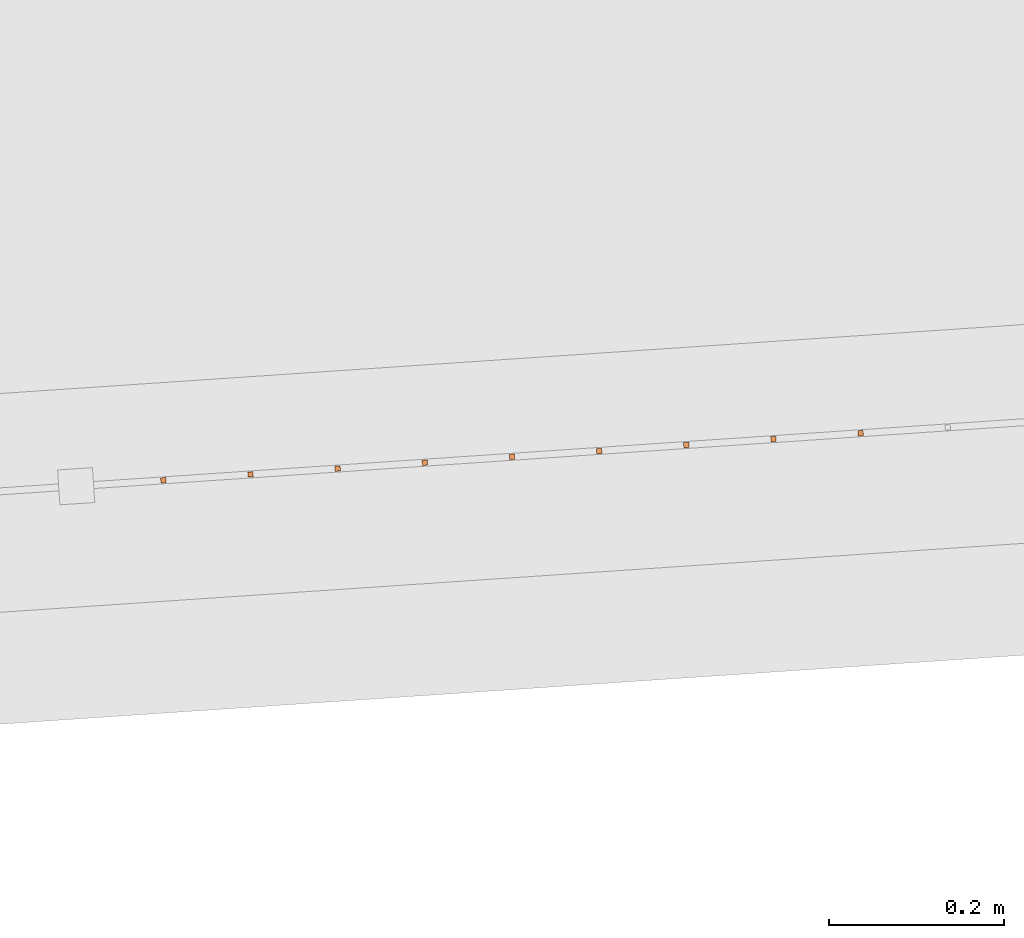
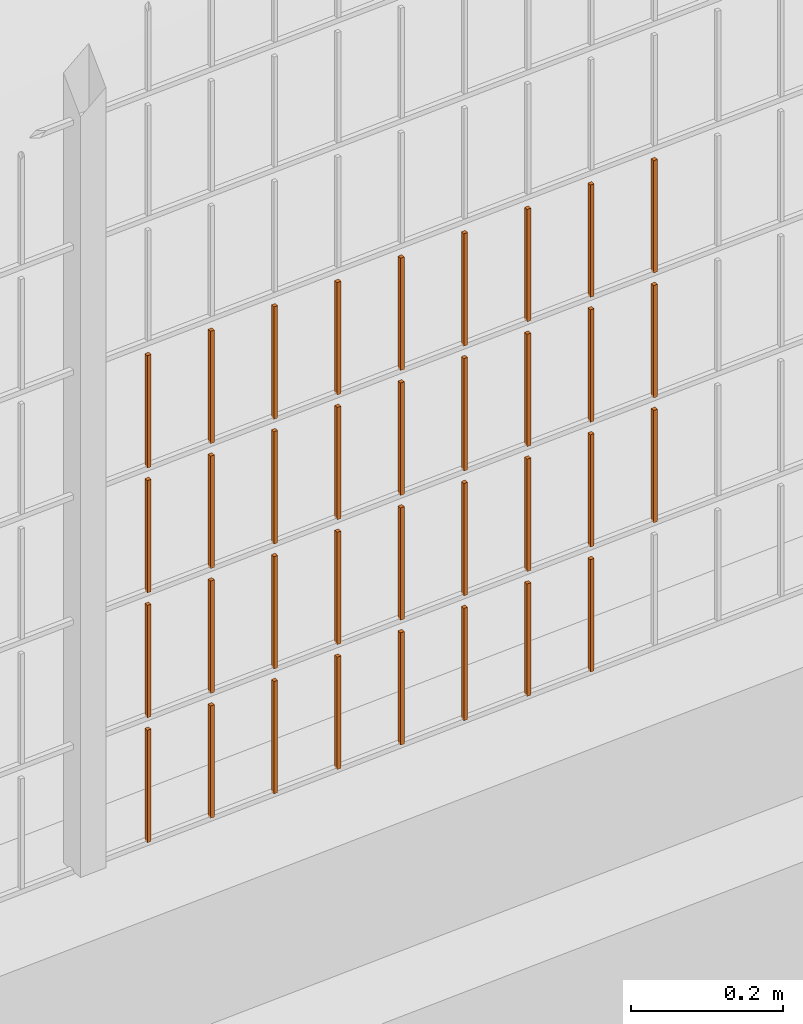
# One storey, part 181 of 1809: 35 proxies, 1 element without a shape of its own.
"""IFC2X3 building model written with IfcOpenShell, lengths in millimetres."""

from ifc_helpers import new_model, entity, si_unit, converted_unit, derived_unit, money_unit, direction, frame, origin_with_axes, place, context, subcontext, project, spatial, faceted_brep, source, transform, mapped, material, type_object, element, aggregate, save


model = new_model("IFC2X3")

# Units and contexts
model_context = context("Model", 3, precision=0.01, world=origin_with_axes(), true_north=direction((0.0, 1.0)))
body_context = subcontext(model_context, "Body", "Model", "MODEL_VIEW")
ifc_project = project(units=[si_unit("LENGTHUNIT", "METRE", prefix="MILLI"), si_unit("AREAUNIT", "SQUARE_METRE"), si_unit("VOLUMEUNIT", "CUBIC_METRE"), converted_unit("PLANEANGLEUNIT", "DEGREE", entity("IfcPlaneAngleMeasure", 0.0174532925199), si_unit("PLANEANGLEUNIT", "RADIAN"), dimensions=[0, 0, 0, 0, 0, 0, 0]), si_unit("SOLIDANGLEUNIT", "STERADIAN"), money_unit("EUR"), converted_unit("TIMEUNIT", "Year", entity("IfcTimeMeasure", 31556926.0), si_unit("TIMEUNIT", "SECOND"), dimensions=[0, 0, 1, 0, 0, 0, 0]), si_unit("MASSUNIT", "GRAM", prefix="KILO"), si_unit("THERMODYNAMICTEMPERATUREUNIT", "DEGREE_CELSIUS"), si_unit("LUMINOUSINTENSITYUNIT", "LUMEN"), si_unit("ENERGYUNIT", "JOULE", prefix="MEGA"), derived_unit("THERMALCONDUCTANCEUNIT", [(si_unit("POWERUNIT", "WATT"), 1), (si_unit("LENGTHUNIT", "METRE"), -1), (si_unit("THERMODYNAMICTEMPERATUREUNIT", "KELVIN"), -1)]), derived_unit("SPECIFICHEATCAPACITYUNIT", [(si_unit("ENERGYUNIT", "JOULE"), 1), (si_unit("MASSUNIT", "GRAM", prefix="KILO"), -1), (si_unit("THERMODYNAMICTEMPERATUREUNIT", "KELVIN"), -1)]), derived_unit("MASSDENSITYUNIT", [(si_unit("MASSUNIT", "GRAM", prefix="KILO"), 1), (si_unit("VOLUMEUNIT", "CUBIC_METRE"), -1)])], contexts=[model_context])

# Site, building, storey
site_placement = place(None, origin_with_axes())
site = spatial("IfcSite", under=ifc_project, at=site_placement, Name="Politse- ja Piirivalveameti ning Päästeameti ühishoone", CompositionType="ELEMENT")
building_placement = place(site_placement, origin_with_axes())
building = spatial("IfcBuilding", under=site, at=building_placement, Name="Politse- ja Piirivalveameti ning Päästeameti ühishoone", CompositionType="ELEMENT")
storey_placement = place(building_placement, origin_with_axes())
storey = spatial("IfcBuildingStorey", under=building, at=storey_placement, Name="Esimene korrus", CompositionType="ELEMENT", Elevation=0.0)

# Proxies
building_element_proxy_type_1 = type_object("IfcBuildingElementProxyType", Name="Railing Type", PredefinedType="NOTDEFINED")
proxy_1_placement = place(storey_placement, frame((89252.001212, -29183.4766571, 203.661247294), z_axis=(0.0, 0.0, 1.0), x_axis=(1.0, 0.0, 0.0)))
proxy_1 = element("IfcBuildingElementProxy", 1, at=proxy_1_placement, inside=storey, type_object=building_element_proxy_type_1, Name="PIIRDEAED")
ifc_material = material(Name="ET-03_Raud")
building_element_proxy_type_2 = type_object("IfcBuildingElementProxyType", Name="IfcBuildingElementProxy", PredefinedType="NOTDEFINED")
shared_shape_1 = source(origin_with_axes(), body_context, "Body", "Brep", [
    faceted_brep([(3.0, 3.0, -0.000752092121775), (-3.0, 3.0, -0.000752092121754), (-3.0, 3.0, 179.99926046), (3.0, 3.0, 179.99926046), (3.0, -3.0, 0.000752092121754), (-3.0, -3.0, 0.000752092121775), (-3.0, -3.0, 180.000764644), (3.0, -3.0, 180.000764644)], [[[0, 1, 2, 3]], [[0, 4, 5, 1]], [[1, 5, 6, 2]], [[3, 2, 6, 7]], [[4, 0, 3, 7]], [[5, 4, 7, 6]]]),
])
proxy_2_placement = place(proxy_1_placement, frame((-71962.710125, -22158.5842531, 609.152414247), z_axis=(0.0, 0.0, 1.0), x_axis=(1.0, 0.0, 0.0)))
proxy_2 = element("IfcBuildingElementProxy", 2, at=proxy_2_placement, type_object=building_element_proxy_type_2, material=ifc_material, Name="BALUSTER - 001", context=body_context, shape_type="MappedRepresentation", body=[
    mapped(shared_shape_1, transform((0.0, 0.0, 0.0), x_axis=(-0.0673926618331, 0.997726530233, 0.0), y_axis=(-0.997726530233, -0.0673926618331, 0.0), z_axis=(0.0, 0.0, 1.0))),
])
shared_shape_2 = source(origin_with_axes(), body_context, "Body", "Brep", [
    faceted_brep([(3.0, 3.0, -0.000752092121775), (-3.0, 3.0, -0.000752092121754), (-3.0, 3.0, 179.99926046), (3.0, 3.0, 179.99926046), (3.0, -3.0, 0.000752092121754), (-3.0, -3.0, 0.000752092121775), (-3.0, -3.0, 180.000764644), (3.0, -3.0, 180.000764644)], [[[0, 1, 2, 3]], [[0, 4, 5, 1]], [[1, 5, 6, 2]], [[3, 2, 6, 7]], [[4, 0, 3, 7]], [[5, 4, 7, 6]]]),
])
proxy_3_placement = place(proxy_1_placement, frame((-71962.710125, -22158.5842531, 409.152414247), z_axis=(0.0, 0.0, 1.0), x_axis=(1.0, 0.0, 0.0)))
proxy_3 = element("IfcBuildingElementProxy", 3, at=proxy_3_placement, type_object=building_element_proxy_type_2, material=ifc_material, Name="BALUSTER - 001", context=body_context, shape_type="MappedRepresentation", body=[
    mapped(shared_shape_2, transform((0.0, 0.0, 0.0), x_axis=(-0.0673926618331, 0.997726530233, 0.0), y_axis=(-0.997726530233, -0.0673926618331, 0.0), z_axis=(0.0, 0.0, 1.0))),
])
shared_shape_3 = source(origin_with_axes(), body_context, "Body", "Brep", [
    faceted_brep([(3.0, 3.0, -0.000752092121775), (-3.0, 3.0, -0.000752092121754), (-3.0, 3.0, 179.99926046), (3.0, 3.0, 179.99926046), (3.0, -3.0, 0.000752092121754), (-3.0, -3.0, 0.000752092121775), (-3.0, -3.0, 180.000764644), (3.0, -3.0, 180.000764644)], [[[0, 1, 2, 3]], [[0, 4, 5, 1]], [[1, 5, 6, 2]], [[3, 2, 6, 7]], [[4, 0, 3, 7]], [[5, 4, 7, 6]]]),
])
proxy_4_placement = place(proxy_1_placement, frame((-71962.710125, -22158.5842531, 9.15241424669), z_axis=(0.0, 0.0, 1.0), x_axis=(1.0, 0.0, 0.0)))
proxy_4 = element("IfcBuildingElementProxy", 4, at=proxy_4_placement, type_object=building_element_proxy_type_2, material=ifc_material, Name="BALUSTER - 001", context=body_context, shape_type="MappedRepresentation", body=[
    mapped(shared_shape_3, transform((0.0, 0.0, 0.0), x_axis=(-0.0673926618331, 0.997726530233, 0.0), y_axis=(-0.997726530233, -0.0673926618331, 0.0), z_axis=(0.0, 0.0, 1.0))),
])
shared_shape_4 = source(origin_with_axes(), body_context, "Body", "Brep", [
    faceted_brep([(3.0, 3.0, -0.000752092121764), (-3.0, 3.0, -0.000752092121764), (-3.0, 3.0, 179.99926046), (3.0, 3.0, 179.99926046), (3.0, -3.0, 0.000752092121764), (-3.0, -3.0, 0.000752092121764), (-3.0, -3.0, 180.000764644), (3.0, -3.0, 180.000764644)], [[[0, 1, 2, 3]], [[0, 4, 5, 1]], [[1, 5, 6, 2]], [[3, 2, 6, 7]], [[4, 0, 3, 7]], [[5, 4, 7, 6]]]),
])
proxy_5_placement = place(proxy_1_placement, frame((-72062.482778, -22165.3235193, 9.1273445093), z_axis=(0.0, 0.0, 1.0), x_axis=(1.0, 0.0, 0.0)))
proxy_5 = element("IfcBuildingElementProxy", 5, at=proxy_5_placement, type_object=building_element_proxy_type_2, material=ifc_material, Name="BALUSTER - 001", context=body_context, shape_type="MappedRepresentation", body=[
    mapped(shared_shape_4, transform((0.0, 0.0, 0.0), x_axis=(-0.0673926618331, 0.997726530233, 0.0), y_axis=(-0.997726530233, -0.0673926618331, 0.0), z_axis=(0.0, 0.0, 1.0))),
])
shared_shape_5 = source(origin_with_axes(), body_context, "Body", "Brep", [
    faceted_brep([(3.0, 3.0, -0.000752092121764), (-3.0, 3.0, -0.000752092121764), (-3.0, 3.0, 179.99926046), (3.0, 3.0, 179.99926046), (3.0, -3.0, 0.000752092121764), (-3.0, -3.0, 0.000752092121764), (-3.0, -3.0, 180.000764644), (3.0, -3.0, 180.000764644)], [[[0, 1, 2, 3]], [[0, 4, 5, 1]], [[1, 5, 6, 2]], [[3, 2, 6, 7]], [[4, 0, 3, 7]], [[5, 4, 7, 6]]]),
])
proxy_6_placement = place(proxy_1_placement, frame((-72062.482778, -22165.3235193, 409.127344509), z_axis=(0.0, 0.0, 1.0), x_axis=(1.0, 0.0, 0.0)))
proxy_6 = element("IfcBuildingElementProxy", 6, at=proxy_6_placement, type_object=building_element_proxy_type_2, material=ifc_material, Name="BALUSTER - 001", context=body_context, shape_type="MappedRepresentation", body=[
    mapped(shared_shape_5, transform((0.0, 0.0, 0.0), x_axis=(-0.0673926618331, 0.997726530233, 0.0), y_axis=(-0.997726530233, -0.0673926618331, 0.0), z_axis=(0.0, 0.0, 1.0))),
])
shared_shape_6 = source(origin_with_axes(), body_context, "Body", "Brep", [
    faceted_brep([(3.0, 3.0, -0.000752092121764), (-3.0, 3.0, -0.000752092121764), (-3.0, 3.0, 179.99926046), (3.0, 3.0, 179.99926046), (3.0, -3.0, 0.000752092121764), (-3.0, -3.0, 0.000752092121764), (-3.0, -3.0, 180.000764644), (3.0, -3.0, 180.000764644)], [[[0, 1, 2, 3]], [[0, 4, 5, 1]], [[1, 5, 6, 2]], [[3, 2, 6, 7]], [[4, 0, 3, 7]], [[5, 4, 7, 6]]]),
])
proxy_7_placement = place(proxy_1_placement, frame((-71463.8468599, -22124.8879222, 409.277762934), z_axis=(0.0, 0.0, 1.0), x_axis=(1.0, 0.0, 0.0)))
proxy_7 = element("IfcBuildingElementProxy", 7, at=proxy_7_placement, type_object=building_element_proxy_type_2, material=ifc_material, Name="BALUSTER - 001", context=body_context, shape_type="MappedRepresentation", body=[
    mapped(shared_shape_6, transform((0.0, 0.0, 0.0), x_axis=(-0.0673926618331, 0.997726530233, 0.0), y_axis=(-0.997726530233, -0.0673926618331, 0.0), z_axis=(0.0, 0.0, 1.0))),
])
shared_shape_7 = source(origin_with_axes(), body_context, "Body", "Brep", [
    faceted_brep([(3.0, 3.0, -0.000752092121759), (-3.0, 3.0, -0.000752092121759), (-3.0, 3.0, 179.99926046), (3.0, 3.0, 179.99926046), (3.0, -3.0, 0.000752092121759), (-3.0, -3.0, 0.000752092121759), (-3.0, -3.0, 180.000764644), (3.0, -3.0, 180.000764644)], [[[0, 1, 2, 3]], [[0, 4, 5, 1]], [[1, 5, 6, 2]], [[3, 2, 6, 7]], [[4, 0, 3, 7]], [[5, 4, 7, 6]]]),
])
proxy_8_placement = place(proxy_1_placement, frame((-71364.0742069, -22118.148656, 409.302832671), z_axis=(0.0, 0.0, 1.0), x_axis=(1.0, 0.0, 0.0)))
proxy_8 = element("IfcBuildingElementProxy", 8, at=proxy_8_placement, type_object=building_element_proxy_type_2, material=ifc_material, Name="BALUSTER - 001", context=body_context, shape_type="MappedRepresentation", body=[
    mapped(shared_shape_7, transform((0.0, 0.0, 0.0), x_axis=(-0.0673926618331, 0.997726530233, 0.0), y_axis=(-0.997726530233, -0.0673926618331, 0.0), z_axis=(0.0, 0.0, 1.0))),
])
shared_shape_8 = source(origin_with_axes(), body_context, "Body", "Brep", [
    faceted_brep([(3.0, 3.0, -0.000752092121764), (-3.0, 3.0, -0.000752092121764), (-3.0, 3.0, 179.99926046), (3.0, 3.0, 179.99926046), (3.0, -3.0, 0.000752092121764), (-3.0, -3.0, 0.000752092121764), (-3.0, -3.0, 180.000764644), (3.0, -3.0, 180.000764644)], [[[0, 1, 2, 3]], [[0, 4, 5, 1]], [[1, 5, 6, 2]], [[3, 2, 6, 7]], [[4, 0, 3, 7]], [[5, 4, 7, 6]]]),
])
proxy_9_placement = place(proxy_1_placement, frame((-72062.482778, -22165.3235193, 609.127344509), z_axis=(0.0, 0.0, 1.0), x_axis=(1.0, 0.0, 0.0)))
proxy_9 = element("IfcBuildingElementProxy", 9, at=proxy_9_placement, type_object=building_element_proxy_type_2, material=ifc_material, Name="BALUSTER - 001", context=body_context, shape_type="MappedRepresentation", body=[
    mapped(shared_shape_8, transform((0.0, 0.0, 0.0), x_axis=(-0.0673926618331, 0.997726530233, 0.0), y_axis=(-0.997726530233, -0.0673926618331, 0.0), z_axis=(0.0, 0.0, 1.0))),
])
shared_shape_9 = source(origin_with_axes(), body_context, "Body", "Brep", [
    faceted_brep([(3.0, 3.0, -0.000752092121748), (-3.0, 3.0, -0.00075209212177), (-3.0, 3.0, 179.99926046), (3.0, 3.0, 179.99926046), (3.0, -3.0, 0.00075209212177), (-3.0, -3.0, 0.000752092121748), (-3.0, -3.0, 180.000764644), (3.0, -3.0, 180.000764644)], [[[0, 1, 2, 3]], [[0, 4, 5, 1]], [[1, 5, 6, 2]], [[3, 2, 6, 7]], [[4, 0, 3, 7]], [[5, 4, 7, 6]]]),
])
proxy_10_placement = place(proxy_1_placement, frame((-71663.3921659, -22138.3664545, 9.22762345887), z_axis=(0.0, 0.0, 1.0), x_axis=(1.0, 0.0, 0.0)))
proxy_10 = element("IfcBuildingElementProxy", 10, at=proxy_10_placement, type_object=building_element_proxy_type_2, material=ifc_material, Name="BALUSTER - 001", context=body_context, shape_type="MappedRepresentation", body=[
    mapped(shared_shape_9, transform((0.0, 0.0, 0.0), x_axis=(-0.0673926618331, 0.997726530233, 0.0), y_axis=(-0.997726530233, -0.0673926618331, 0.0), z_axis=(0.0, 0.0, 1.0))),
])
shared_shape_10 = source(origin_with_axes(), body_context, "Body", "Brep", [
    faceted_brep([(3.0, 3.0, -0.000752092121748), (-3.0, 3.0, -0.00075209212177), (-3.0, 3.0, 179.99926046), (3.0, 3.0, 179.99926046), (3.0, -3.0, 0.00075209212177), (-3.0, -3.0, 0.000752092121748), (-3.0, -3.0, 180.000764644), (3.0, -3.0, 180.000764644)], [[[0, 1, 2, 3]], [[0, 4, 5, 1]], [[1, 5, 6, 2]], [[3, 2, 6, 7]], [[4, 0, 3, 7]], [[5, 4, 7, 6]]]),
])
proxy_11_placement = place(proxy_1_placement, frame((-71862.937472, -22151.8449869, 9.17748398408), z_axis=(0.0, 0.0, 1.0), x_axis=(1.0, 0.0, 0.0)))
proxy_11 = element("IfcBuildingElementProxy", 11, at=proxy_11_placement, type_object=building_element_proxy_type_2, material=ifc_material, Name="BALUSTER - 001", context=body_context, shape_type="MappedRepresentation", body=[
    mapped(shared_shape_10, transform((0.0, 0.0, 0.0), x_axis=(-0.0673926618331, 0.997726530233, 0.0), y_axis=(-0.997726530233, -0.0673926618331, 0.0), z_axis=(0.0, 0.0, 1.0))),
])
shared_shape_11 = source(origin_with_axes(), body_context, "Body", "Brep", [
    faceted_brep([(3.0, 3.0, -0.000752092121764), (-3.0, 3.0, -0.000752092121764), (-3.0, 3.0, 179.99926046), (3.0, 3.0, 179.99926046), (3.0, -3.0, 0.000752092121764), (-3.0, -3.0, 0.000752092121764), (-3.0, -3.0, 180.000764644), (3.0, -3.0, 180.000764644)], [[[0, 1, 2, 3]], [[0, 4, 5, 1]], [[1, 5, 6, 2]], [[3, 2, 6, 7]], [[4, 0, 3, 7]], [[5, 4, 7, 6]]]),
])
proxy_12_placement = place(proxy_1_placement, frame((-71463.8468599, -22124.8879222, 9.27776293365), z_axis=(0.0, 0.0, 1.0), x_axis=(1.0, 0.0, 0.0)))
proxy_12 = element("IfcBuildingElementProxy", 12, at=proxy_12_placement, type_object=building_element_proxy_type_2, material=ifc_material, Name="BALUSTER - 001", context=body_context, shape_type="MappedRepresentation", body=[
    mapped(shared_shape_11, transform((0.0, 0.0, 0.0), x_axis=(-0.0673926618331, 0.997726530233, 0.0), y_axis=(-0.997726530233, -0.0673926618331, 0.0), z_axis=(0.0, 0.0, 1.0))),
])
proxy_13_placement = place(proxy_1_placement, frame((-71463.8468599, -22124.8879222, 209.277762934), z_axis=(0.0, 0.0, 1.0), x_axis=(1.0, 0.0, 0.0)))
proxy_13 = element("IfcBuildingElementProxy", 13, at=proxy_13_placement, type_object=building_element_proxy_type_2, material=ifc_material, Name="BALUSTER - 001", context=body_context, shape_type="MappedRepresentation", body=[
    mapped(shared_shape_11, transform((0.0, 0.0, 0.0), x_axis=(-0.0673926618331, 0.997726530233, 0.0), y_axis=(-0.997726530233, -0.0673926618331, 0.0), z_axis=(0.0, 0.0, 1.0))),
])
shared_shape_12 = source(origin_with_axes(), body_context, "Body", "Brep", [
    faceted_brep([(3.0, 3.0, -0.000752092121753), (-3.0, 3.0, -0.000752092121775), (-3.0, 3.0, 179.99926046), (3.0, 3.0, 179.99926046), (3.0, -3.0, 0.000752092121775), (-3.0, -3.0, 0.000752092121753), (-3.0, -3.0, 180.000764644), (3.0, -3.0, 180.000764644)], [[[0, 1, 2, 3]], [[0, 4, 5, 1]], [[1, 5, 6, 2]], [[3, 2, 6, 7]], [[4, 0, 3, 7]], [[5, 4, 7, 6]]]),
])
proxy_14_placement = place(proxy_1_placement, frame((-71763.1648189, -22145.1057207, 9.20255372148), z_axis=(0.0, 0.0, 1.0), x_axis=(1.0, 0.0, 0.0)))
proxy_14 = element("IfcBuildingElementProxy", 14, at=proxy_14_placement, type_object=building_element_proxy_type_2, material=ifc_material, Name="BALUSTER - 001", context=body_context, shape_type="MappedRepresentation", body=[
    mapped(shared_shape_12, transform((0.0, 0.0, 0.0), x_axis=(-0.0673926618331, 0.997726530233, 0.0), y_axis=(-0.997726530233, -0.0673926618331, 0.0), z_axis=(0.0, 0.0, 1.0))),
])
shared_shape_13 = source(origin_with_axes(), body_context, "Body", "Brep", [
    faceted_brep([(3.0, 3.0, -0.000752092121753), (-3.0, 3.0, -0.000752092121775), (-3.0, 3.0, 179.99926046), (3.0, 3.0, 179.99926046), (3.0, -3.0, 0.000752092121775), (-3.0, -3.0, 0.000752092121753), (-3.0, -3.0, 180.000764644), (3.0, -3.0, 180.000764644)], [[[0, 1, 2, 3]], [[0, 4, 5, 1]], [[1, 5, 6, 2]], [[3, 2, 6, 7]], [[4, 0, 3, 7]], [[5, 4, 7, 6]]]),
])
proxy_15_placement = place(proxy_1_placement, frame((-71763.1648189, -22145.1057207, 209.202553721), z_axis=(0.0, 0.0, 1.0), x_axis=(1.0, 0.0, 0.0)))
proxy_15 = element("IfcBuildingElementProxy", 15, at=proxy_15_placement, type_object=building_element_proxy_type_2, material=ifc_material, Name="BALUSTER - 001", context=body_context, shape_type="MappedRepresentation", body=[
    mapped(shared_shape_13, transform((0.0, 0.0, 0.0), x_axis=(-0.0673926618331, 0.997726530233, 0.0), y_axis=(-0.997726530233, -0.0673926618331, 0.0), z_axis=(0.0, 0.0, 1.0))),
])
shared_shape_14 = source(origin_with_axes(), body_context, "Body", "Brep", [
    faceted_brep([(3.0, 3.0, -0.000752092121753), (-3.0, 3.0, -0.000752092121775), (-3.0, 3.0, 179.99926046), (3.0, 3.0, 179.99926046), (3.0, -3.0, 0.000752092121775), (-3.0, -3.0, 0.000752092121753), (-3.0, -3.0, 180.000764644), (3.0, -3.0, 180.000764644)], [[[0, 1, 2, 3]], [[0, 4, 5, 1]], [[1, 5, 6, 2]], [[3, 2, 6, 7]], [[4, 0, 3, 7]], [[5, 4, 7, 6]]]),
])
proxy_16_placement = place(proxy_1_placement, frame((-71763.1648189, -22145.1057207, 409.202553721), z_axis=(0.0, 0.0, 1.0), x_axis=(1.0, 0.0, 0.0)))
proxy_16 = element("IfcBuildingElementProxy", 16, at=proxy_16_placement, type_object=building_element_proxy_type_2, material=ifc_material, Name="BALUSTER - 001", context=body_context, shape_type="MappedRepresentation", body=[
    mapped(shared_shape_14, transform((0.0, 0.0, 0.0), x_axis=(-0.0673926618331, 0.997726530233, 0.0), y_axis=(-0.997726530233, -0.0673926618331, 0.0), z_axis=(0.0, 0.0, 1.0))),
])
proxy_17_placement = place(proxy_1_placement, frame((-71763.1648189, -22145.1057207, 609.202553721), z_axis=(0.0, 0.0, 1.0), x_axis=(1.0, 0.0, 0.0)))
proxy_17 = element("IfcBuildingElementProxy", 17, at=proxy_17_placement, type_object=building_element_proxy_type_2, material=ifc_material, Name="BALUSTER - 001", context=body_context, shape_type="MappedRepresentation", body=[
    mapped(shared_shape_14, transform((0.0, 0.0, 0.0), x_axis=(-0.0673926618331, 0.997726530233, 0.0), y_axis=(-0.997726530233, -0.0673926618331, 0.0), z_axis=(0.0, 0.0, 1.0))),
])
shared_shape_15 = source(origin_with_axes(), body_context, "Body", "Brep", [
    faceted_brep([(3.0, 3.0, -0.000752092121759), (-3.0, 3.0, -0.000752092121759), (-3.0, 3.0, 179.99926046), (3.0, 3.0, 179.99926046), (3.0, -3.0, 0.000752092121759), (-3.0, -3.0, 0.000752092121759), (-3.0, -3.0, 180.000764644), (3.0, -3.0, 180.000764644)], [[[0, 1, 2, 3]], [[0, 4, 5, 1]], [[1, 5, 6, 2]], [[3, 2, 6, 7]], [[4, 0, 3, 7]], [[5, 4, 7, 6]]]),
])
proxy_18_placement = place(proxy_1_placement, frame((-71364.0742069, -22118.148656, 609.302832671), z_axis=(0.0, 0.0, 1.0), x_axis=(1.0, 0.0, 0.0)))
proxy_18 = element("IfcBuildingElementProxy", 18, at=proxy_18_placement, type_object=building_element_proxy_type_2, material=ifc_material, Name="BALUSTER - 001", context=body_context, shape_type="MappedRepresentation", body=[
    mapped(shared_shape_15, transform((0.0, 0.0, 0.0), x_axis=(-0.0673926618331, 0.997726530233, 0.0), y_axis=(-0.997726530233, -0.0673926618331, 0.0), z_axis=(0.0, 0.0, 1.0))),
])
shared_shape_16 = source(origin_with_axes(), body_context, "Body", "Brep", [
    faceted_brep([(3.0, 3.0, -0.000752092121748), (-3.0, 3.0, -0.00075209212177), (-3.0, 3.0, 179.99926046), (3.0, 3.0, 179.99926046), (3.0, -3.0, 0.00075209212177), (-3.0, -3.0, 0.000752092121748), (-3.0, -3.0, 180.000764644), (3.0, -3.0, 180.000764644)], [[[0, 1, 2, 3]], [[0, 4, 5, 1]], [[1, 5, 6, 2]], [[3, 2, 6, 7]], [[4, 0, 3, 7]], [[5, 4, 7, 6]]]),
])
proxy_19_placement = place(proxy_1_placement, frame((-71264.3015538, -22111.4093898, 209.327902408), z_axis=(0.0, 0.0, 1.0), x_axis=(1.0, 0.0, 0.0)))
proxy_19 = element("IfcBuildingElementProxy", 19, at=proxy_19_placement, type_object=building_element_proxy_type_2, material=ifc_material, Name="BALUSTER - 001", context=body_context, shape_type="MappedRepresentation", body=[
    mapped(shared_shape_16, transform((0.0, 0.0, 0.0), x_axis=(-0.0673926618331, 0.997726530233, 0.0), y_axis=(-0.997726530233, -0.0673926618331, 0.0), z_axis=(0.0, 0.0, 1.0))),
])
proxy_20_placement = place(proxy_1_placement, frame((-71663.3921659, -22138.3664545, 209.227623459), z_axis=(0.0, 0.0, 1.0), x_axis=(1.0, 0.0, 0.0)))
proxy_20 = element("IfcBuildingElementProxy", 20, at=proxy_20_placement, type_object=building_element_proxy_type_2, material=ifc_material, Name="BALUSTER - 001", context=body_context, shape_type="MappedRepresentation", body=[
    mapped(shared_shape_16, transform((0.0, 0.0, 0.0), x_axis=(-0.0673926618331, 0.997726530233, 0.0), y_axis=(-0.997726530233, -0.0673926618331, 0.0), z_axis=(0.0, 0.0, 1.0))),
])
proxy_21_placement = place(proxy_1_placement, frame((-71862.937472, -22151.8449869, 209.177483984), z_axis=(0.0, 0.0, 1.0), x_axis=(1.0, 0.0, 0.0)))
proxy_21 = element("IfcBuildingElementProxy", 21, at=proxy_21_placement, type_object=building_element_proxy_type_2, material=ifc_material, Name="BALUSTER - 001", context=body_context, shape_type="MappedRepresentation", body=[
    mapped(shared_shape_16, transform((0.0, 0.0, 0.0), x_axis=(-0.0673926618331, 0.997726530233, 0.0), y_axis=(-0.997726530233, -0.0673926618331, 0.0), z_axis=(0.0, 0.0, 1.0))),
])
proxy_22_placement = place(proxy_1_placement, frame((-71663.3921659, -22138.3664545, 409.227623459), z_axis=(0.0, 0.0, 1.0), x_axis=(1.0, 0.0, 0.0)))
proxy_22 = element("IfcBuildingElementProxy", 22, at=proxy_22_placement, type_object=building_element_proxy_type_2, material=ifc_material, Name="BALUSTER - 001", context=body_context, shape_type="MappedRepresentation", body=[
    mapped(shared_shape_16, transform((0.0, 0.0, 0.0), x_axis=(-0.0673926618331, 0.997726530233, 0.0), y_axis=(-0.997726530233, -0.0673926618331, 0.0), z_axis=(0.0, 0.0, 1.0))),
])
proxy_23_placement = place(proxy_1_placement, frame((-71862.937472, -22151.8449869, 409.177483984), z_axis=(0.0, 0.0, 1.0), x_axis=(1.0, 0.0, 0.0)))
proxy_23 = element("IfcBuildingElementProxy", 23, at=proxy_23_placement, type_object=building_element_proxy_type_2, material=ifc_material, Name="BALUSTER - 001", context=body_context, shape_type="MappedRepresentation", body=[
    mapped(shared_shape_16, transform((0.0, 0.0, 0.0), x_axis=(-0.0673926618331, 0.997726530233, 0.0), y_axis=(-0.997726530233, -0.0673926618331, 0.0), z_axis=(0.0, 0.0, 1.0))),
])
proxy_24_placement = place(proxy_1_placement, frame((-71264.3015538, -22111.4093898, 609.327902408), z_axis=(0.0, 0.0, 1.0), x_axis=(1.0, 0.0, 0.0)))
proxy_24 = element("IfcBuildingElementProxy", 24, at=proxy_24_placement, type_object=building_element_proxy_type_2, material=ifc_material, Name="BALUSTER - 001", context=body_context, shape_type="MappedRepresentation", body=[
    mapped(shared_shape_16, transform((0.0, 0.0, 0.0), x_axis=(-0.0673926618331, 0.997726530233, 0.0), y_axis=(-0.997726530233, -0.0673926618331, 0.0), z_axis=(0.0, 0.0, 1.0))),
])
proxy_25_placement = place(proxy_1_placement, frame((-71862.937472, -22151.8449869, 609.177483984), z_axis=(0.0, 0.0, 1.0), x_axis=(1.0, 0.0, 0.0)))
proxy_25 = element("IfcBuildingElementProxy", 25, at=proxy_25_placement, type_object=building_element_proxy_type_2, material=ifc_material, Name="BALUSTER - 001", context=body_context, shape_type="MappedRepresentation", body=[
    mapped(shared_shape_16, transform((0.0, 0.0, 0.0), x_axis=(-0.0673926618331, 0.997726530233, 0.0), y_axis=(-0.997726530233, -0.0673926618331, 0.0), z_axis=(0.0, 0.0, 1.0))),
])
shared_shape_17 = source(origin_with_axes(), body_context, "Body", "Brep", [
    faceted_brep([(3.0, 3.0, -0.000752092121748), (-3.0, 3.0, -0.00075209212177), (-3.0, 3.0, 179.99926046), (3.0, 3.0, 179.99926046), (3.0, -3.0, 0.00075209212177), (-3.0, -3.0, 0.000752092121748), (-3.0, -3.0, 180.000764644), (3.0, -3.0, 180.000764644)], [[[0, 1, 2, 3]], [[0, 4, 5, 1]], [[1, 5, 6, 2]], [[3, 2, 6, 7]], [[4, 0, 3, 7]], [[5, 4, 7, 6]]]),
])
proxy_26_placement = place(proxy_1_placement, frame((-71264.3015538, -22111.4093898, 409.327902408), z_axis=(0.0, 0.0, 1.0), x_axis=(1.0, 0.0, 0.0)))
proxy_26 = element("IfcBuildingElementProxy", 26, at=proxy_26_placement, type_object=building_element_proxy_type_2, material=ifc_material, Name="BALUSTER - 001", context=body_context, shape_type="MappedRepresentation", body=[
    mapped(shared_shape_17, transform((0.0, 0.0, 0.0), x_axis=(-0.0673926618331, 0.997726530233, 0.0), y_axis=(-0.997726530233, -0.0673926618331, 0.0), z_axis=(0.0, 0.0, 1.0))),
])
proxy_27_placement = place(proxy_1_placement, frame((-71663.3921659, -22138.3664545, 609.227623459), z_axis=(0.0, 0.0, 1.0), x_axis=(1.0, 0.0, 0.0)))
proxy_27 = element("IfcBuildingElementProxy", 27, at=proxy_27_placement, type_object=building_element_proxy_type_2, material=ifc_material, Name="BALUSTER - 001", context=body_context, shape_type="MappedRepresentation", body=[
    mapped(shared_shape_17, transform((0.0, 0.0, 0.0), x_axis=(-0.0673926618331, 0.997726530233, 0.0), y_axis=(-0.997726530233, -0.0673926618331, 0.0), z_axis=(0.0, 0.0, 1.0))),
])
shared_shape_18 = source(origin_with_axes(), body_context, "Body", "Brep", [
    faceted_brep([(3.0, 3.0, -0.000752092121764), (-3.0, 3.0, -0.000752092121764), (-3.0, 3.0, 179.99926046), (3.0, 3.0, 179.99926046), (3.0, -3.0, 0.000752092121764), (-3.0, -3.0, 0.000752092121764), (-3.0, -3.0, 180.000764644), (3.0, -3.0, 180.000764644)], [[[0, 1, 2, 3]], [[0, 4, 5, 1]], [[1, 5, 6, 2]], [[3, 2, 6, 7]], [[4, 0, 3, 7]], [[5, 4, 7, 6]]]),
])
proxy_28_placement = place(proxy_1_placement, frame((-71463.8468599, -22124.8879222, 609.277762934), z_axis=(0.0, 0.0, 1.0), x_axis=(1.0, 0.0, 0.0)))
proxy_28 = element("IfcBuildingElementProxy", 28, at=proxy_28_placement, type_object=building_element_proxy_type_2, material=ifc_material, Name="BALUSTER - 001", context=body_context, shape_type="MappedRepresentation", body=[
    mapped(shared_shape_18, transform((0.0, 0.0, 0.0), x_axis=(-0.0673926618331, 0.997726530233, 0.0), y_axis=(-0.997726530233, -0.0673926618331, 0.0), z_axis=(0.0, 0.0, 1.0))),
])
shared_shape_19 = source(origin_with_axes(), body_context, "Body", "Brep", [
    faceted_brep([(3.0, 3.0, -0.000752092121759), (-3.0, 3.0, -0.000752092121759), (-3.0, 3.0, 179.99926046), (3.0, 3.0, 179.99926046), (3.0, -3.0, 0.000752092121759), (-3.0, -3.0, 0.000752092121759), (-3.0, -3.0, 180.000764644), (3.0, -3.0, 180.000764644)], [[[0, 1, 2, 3]], [[0, 4, 5, 1]], [[1, 5, 6, 2]], [[3, 2, 6, 7]], [[4, 0, 3, 7]], [[5, 4, 7, 6]]]),
])
proxy_29_placement = place(proxy_1_placement, frame((-71364.0742069, -22118.148656, 9.30283267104), z_axis=(0.0, 0.0, 1.0), x_axis=(1.0, 0.0, 0.0)))
proxy_29 = element("IfcBuildingElementProxy", 29, at=proxy_29_placement, type_object=building_element_proxy_type_2, material=ifc_material, Name="BALUSTER - 001", context=body_context, shape_type="MappedRepresentation", body=[
    mapped(shared_shape_19, transform((0.0, 0.0, 0.0), x_axis=(-0.0673926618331, 0.997726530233, 0.0), y_axis=(-0.997726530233, -0.0673926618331, 0.0), z_axis=(0.0, 0.0, 1.0))),
])
shared_shape_20 = source(origin_with_axes(), body_context, "Body", "Brep", [
    faceted_brep([(3.0, 3.0, -0.000752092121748), (-3.0, 3.0, -0.00075209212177), (-3.0, 3.0, 179.99926046), (3.0, 3.0, 179.99926046), (3.0, -3.0, 0.00075209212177), (-3.0, -3.0, 0.000752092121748), (-3.0, -3.0, 180.000764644), (3.0, -3.0, 180.000764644)], [[[0, 1, 2, 3]], [[0, 4, 5, 1]], [[1, 5, 6, 2]], [[3, 2, 6, 7]], [[4, 0, 3, 7]], [[5, 4, 7, 6]]]),
])
proxy_30_placement = place(proxy_1_placement, frame((-71563.6195129, -22131.6271883, 609.252693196), z_axis=(0.0, 0.0, 1.0), x_axis=(1.0, 0.0, 0.0)))
proxy_30 = element("IfcBuildingElementProxy", 30, at=proxy_30_placement, type_object=building_element_proxy_type_2, material=ifc_material, Name="BALUSTER - 001", context=body_context, shape_type="MappedRepresentation", body=[
    mapped(shared_shape_20, transform((0.0, 0.0, 0.0), x_axis=(-0.0673926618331, 0.997726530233, 0.0), y_axis=(-0.997726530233, -0.0673926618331, 0.0), z_axis=(0.0, 0.0, 1.0))),
])
shared_shape_21 = source(origin_with_axes(), body_context, "Body", "Brep", [
    faceted_brep([(3.0, 3.0, -0.000752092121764), (-3.0, 3.0, -0.000752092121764), (-3.0, 3.0, 179.99926046), (3.0, 3.0, 179.99926046), (3.0, -3.0, 0.000752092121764), (-3.0, -3.0, 0.000752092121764), (-3.0, -3.0, 180.000764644), (3.0, -3.0, 180.000764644)], [[[0, 1, 2, 3]], [[0, 4, 5, 1]], [[1, 5, 6, 2]], [[3, 2, 6, 7]], [[4, 0, 3, 7]], [[5, 4, 7, 6]]]),
])
proxy_31_placement = place(proxy_1_placement, frame((-72062.482778, -22165.3235193, 209.127344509), z_axis=(0.0, 0.0, 1.0), x_axis=(1.0, 0.0, 0.0)))
proxy_31 = element("IfcBuildingElementProxy", 31, at=proxy_31_placement, type_object=building_element_proxy_type_2, material=ifc_material, Name="BALUSTER - 001", context=body_context, shape_type="MappedRepresentation", body=[
    mapped(shared_shape_21, transform((0.0, 0.0, 0.0), x_axis=(-0.0673926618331, 0.997726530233, 0.0), y_axis=(-0.997726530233, -0.0673926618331, 0.0), z_axis=(0.0, 0.0, 1.0))),
])
shared_shape_22 = source(origin_with_axes(), body_context, "Body", "Brep", [
    faceted_brep([(3.0, 3.0, -0.000752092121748), (-3.0, 3.0, -0.00075209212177), (-3.0, 3.0, 179.99926046), (3.0, 3.0, 179.99926046), (3.0, -3.0, 0.00075209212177), (-3.0, -3.0, 0.000752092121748), (-3.0, -3.0, 180.000764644), (3.0, -3.0, 180.000764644)], [[[0, 1, 2, 3]], [[0, 4, 5, 1]], [[1, 5, 6, 2]], [[3, 2, 6, 7]], [[4, 0, 3, 7]], [[5, 4, 7, 6]]]),
])
proxy_32_placement = place(proxy_1_placement, frame((-71563.6195129, -22131.6271883, 9.25269319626), z_axis=(0.0, 0.0, 1.0), x_axis=(1.0, 0.0, 0.0)))
proxy_32 = element("IfcBuildingElementProxy", 32, at=proxy_32_placement, type_object=building_element_proxy_type_2, material=ifc_material, Name="BALUSTER - 001", context=body_context, shape_type="MappedRepresentation", body=[
    mapped(shared_shape_22, transform((0.0, 0.0, 0.0), x_axis=(-0.0673926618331, 0.997726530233, 0.0), y_axis=(-0.997726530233, -0.0673926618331, 0.0), z_axis=(0.0, 0.0, 1.0))),
])
proxy_33_placement = place(proxy_1_placement, frame((-71563.6195129, -22131.6271883, 209.252693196), z_axis=(0.0, 0.0, 1.0), x_axis=(1.0, 0.0, 0.0)))
proxy_33 = element("IfcBuildingElementProxy", 33, at=proxy_33_placement, type_object=building_element_proxy_type_2, material=ifc_material, Name="BALUSTER - 001", context=body_context, shape_type="MappedRepresentation", body=[
    mapped(shared_shape_22, transform((0.0, 0.0, 0.0), x_axis=(-0.0673926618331, 0.997726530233, 0.0), y_axis=(-0.997726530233, -0.0673926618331, 0.0), z_axis=(0.0, 0.0, 1.0))),
])
shared_shape_23 = source(origin_with_axes(), body_context, "Body", "Brep", [
    faceted_brep([(3.0, 3.0, -0.000752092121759), (-3.0, 3.0, -0.000752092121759), (-3.0, 3.0, 179.99926046), (3.0, 3.0, 179.99926046), (3.0, -3.0, 0.000752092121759), (-3.0, -3.0, 0.000752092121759), (-3.0, -3.0, 180.000764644), (3.0, -3.0, 180.000764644)], [[[0, 1, 2, 3]], [[0, 4, 5, 1]], [[1, 5, 6, 2]], [[3, 2, 6, 7]], [[4, 0, 3, 7]], [[5, 4, 7, 6]]]),
])
proxy_34_placement = place(proxy_1_placement, frame((-71364.0742069, -22118.148656, 209.302832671), z_axis=(0.0, 0.0, 1.0), x_axis=(1.0, 0.0, 0.0)))
proxy_34 = element("IfcBuildingElementProxy", 34, at=proxy_34_placement, type_object=building_element_proxy_type_2, material=ifc_material, Name="BALUSTER - 001", context=body_context, shape_type="MappedRepresentation", body=[
    mapped(shared_shape_23, transform((0.0, 0.0, 0.0), x_axis=(-0.0673926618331, 0.997726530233, 0.0), y_axis=(-0.997726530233, -0.0673926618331, 0.0), z_axis=(0.0, 0.0, 1.0))),
])
shared_shape_24 = source(origin_with_axes(), body_context, "Body", "Brep", [
    faceted_brep([(3.0, 3.0, -0.000752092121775), (-3.0, 3.0, -0.000752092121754), (-3.0, 3.0, 179.99926046), (3.0, 3.0, 179.99926046), (3.0, -3.0, 0.000752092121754), (-3.0, -3.0, 0.000752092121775), (-3.0, -3.0, 180.000764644), (3.0, -3.0, 180.000764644)], [[[0, 1, 2, 3]], [[0, 4, 5, 1]], [[1, 5, 6, 2]], [[3, 2, 6, 7]], [[4, 0, 3, 7]], [[5, 4, 7, 6]]]),
])
proxy_35_placement = place(proxy_1_placement, frame((-71962.710125, -22158.5842531, 209.152414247), z_axis=(0.0, 0.0, 1.0), x_axis=(1.0, 0.0, 0.0)))
proxy_35 = element("IfcBuildingElementProxy", 35, at=proxy_35_placement, type_object=building_element_proxy_type_2, material=ifc_material, Name="BALUSTER - 001", context=body_context, shape_type="MappedRepresentation", body=[
    mapped(shared_shape_24, transform((0.0, 0.0, 0.0), x_axis=(-0.0673926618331, 0.997726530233, 0.0), y_axis=(-0.997726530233, -0.0673926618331, 0.0), z_axis=(0.0, 0.0, 1.0))),
])
shared_shape_25 = source(origin_with_axes(), body_context, "Body", "Brep", [
    faceted_brep([(3.0, 3.0, -0.000752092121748), (-3.0, 3.0, -0.00075209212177), (-3.0, 3.0, 179.99926046), (3.0, 3.0, 179.99926046), (3.0, -3.0, 0.00075209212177), (-3.0, -3.0, 0.000752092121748), (-3.0, -3.0, 180.000764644), (3.0, -3.0, 180.000764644)], [[[0, 1, 2, 3]], [[0, 4, 5, 1]], [[1, 5, 6, 2]], [[3, 2, 6, 7]], [[4, 0, 3, 7]], [[5, 4, 7, 6]]]),
])
proxy_36_placement = place(proxy_1_placement, frame((-71563.6195129, -22131.6271883, 409.252693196), z_axis=(0.0, 0.0, 1.0), x_axis=(1.0, 0.0, 0.0)))
proxy_36 = element("IfcBuildingElementProxy", 36, at=proxy_36_placement, type_object=building_element_proxy_type_2, material=ifc_material, Name="BALUSTER - 001", context=body_context, shape_type="MappedRepresentation", body=[
    mapped(shared_shape_25, transform((0.0, 0.0, 0.0), x_axis=(-0.0673926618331, 0.997726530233, 0.0), y_axis=(-0.997726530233, -0.0673926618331, 0.0), z_axis=(0.0, 0.0, 1.0))),
])
aggregate(proxy_1, [proxy_29, proxy_12, proxy_32, proxy_10, proxy_14, proxy_11, proxy_4, proxy_5, proxy_19, proxy_34, proxy_13, proxy_33, proxy_20, proxy_15, proxy_21, proxy_35, proxy_31, proxy_26, proxy_8, proxy_7, proxy_36, proxy_22, proxy_16, proxy_23, proxy_3, proxy_6, proxy_24, proxy_18, proxy_28, proxy_30, proxy_27, proxy_17, proxy_25, proxy_2, proxy_9])

save(model, "model.ifc")
